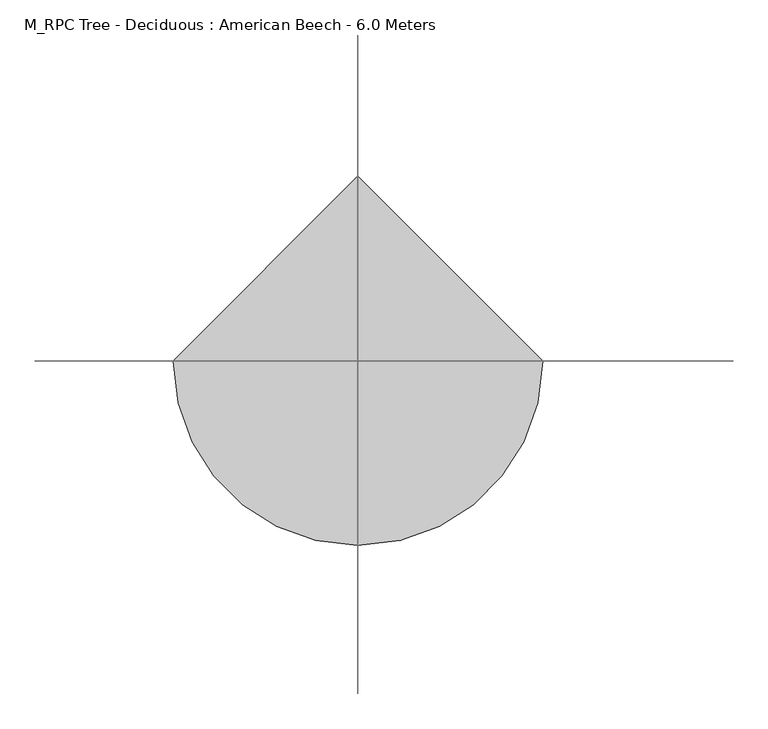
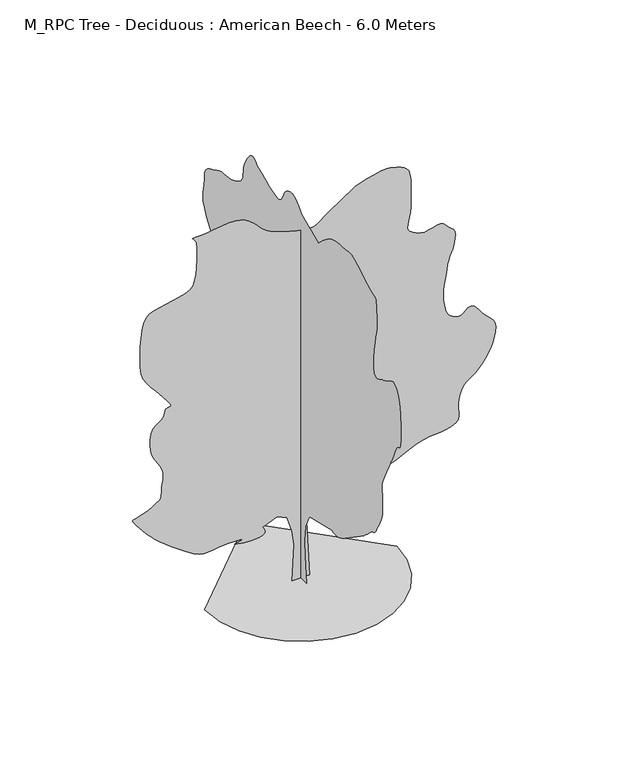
"""IFC4 building model written with IfcOpenShell, lengths in millimetres: geographic element geometry, M_RPC Tree - Deciduous : American Beech - 6.0 Meters."""

from ifc_helpers import new_model, si_unit, origin, place, context, project, spatial, triangles, source, transform, mapped, element, save


def m_rpc_tree_deciduous_american_beech_6_0_meters_be49fed4(model_context):
    return source(origin(), model_context, "Body", "Tessellation", [
        triangles([(0.0009733, 134.7013619, 0.0), (0.0009733, -147.494867, 0.0), (0.0009733, -109.8685844, 413.8878181), (0.0009733, -100.4623272, 649.050499), (0.0009733, -119.2748508, 884.2131798), (0.0009733, -232.153435, 1100.5634188), (0.0009733, -805.9506603, 1241.6609837), (0.0009733, -836.5581671, 1230.0334957), (0.0009733, -869.3831984, 1221.2035114), (0.0009733, -906.6532345, 1217.965991), (0.0009733, -950.5882708, 1223.1234524), (0.0009733, -1003.4058317, 1239.4685303), (0.0009733, -1067.3308542, 1269.7985104), (0.0009733, -1144.5859497, 1316.9135124), (0.0009733, -1455.0011593, 1533.2636787), (0.0009733, -1498.8811844, 1564.1163013), (0.0009733, -1542.2661816, 1593.486311), (0.0009733, -1585.8162849, 1623.3513485), (0.0009733, -1630.1888672, 1655.6862934), (0.0009733, -1676.041301, 1692.4613743), (0.0009733, -1724.0338657, 1735.6539413), (0.0009733, -1774.8239342, 1787.2388741), (0.0009733, -1818.8389801, 1828.7590141), (0.0009733, -1849.3615356, 1847.5739994), (0.0009733, -1871.3289448, 1854.3740204), (0.0009733, -1889.6765167, 1859.8590054), (0.0009733, -1909.3389793, 1874.7240864), (0.0009733, -1935.2541126, 1909.6614887), (0.0009733, -1972.3591152, 1975.3715767), (0.0009733, -2012.7566494, 2050.40159), (0.0009733, -2045.5841515, 2111.4491718), (0.0009733, -2071.3341785, 2166.4067184), (0.0009733, -2090.5042294, 2223.1767998), (0.0009733, -2103.5867157, 2289.651812), (0.0009733, -2111.0717239, 2373.7344704), (0.0009733, -2113.4592236, 2483.3219673), (0.0009733, -2108.7967175, 2583.5521866), (0.0009733, -2099.1991928, 2645.9521568), (0.0009733, -2091.2441551, 2687.927211), (0.0009733, -2091.5191383, 2726.9521545), (0.0009733, -2106.6016479, 2780.4523773), (0.0009733, -2143.0767471, 2865.9023941), (0.0009733, -2207.5242668, 3000.6773071), (0.0009733, -2272.3543213, 3131.8524399), (0.0009733, -2311.5169018, 3208.0527306), (0.0009733, -2333.894315, 3249.2275429), (0.0009733, -2348.3743904, 3275.2526985), (0.0009733, -2363.8419056, 3306.0525627), (0.0009733, -2389.1819286, 3361.5276649), (0.0009733, -2433.2795277, 3461.6026611), (0.0009733, -2483.0818657, 3552.8029083), (0.0009733, -2520.7019531, 3587.7528099), (0.0009733, -2547.8020432, 3595.3779259), (0.0009733, -2566.002095, 3604.6529411), (0.0009733, -2576.9770065, 3644.5278328), (0.0009733, -2582.3519691, 3743.9531593), (0.0009733, -2583.7771729, 3931.9283134), (0.0009733, -2574.1771774, 4144.4034256), (0.0009733, -2548.4520035, 4302.6033623), (0.0009733, -2511.2269501, 4413.2285866), (0.0009733, -2467.0668549, 4483.053685), (0.0009733, -2420.6095161, 4518.8035378), (0.0009733, -2376.4569786, 4527.2536034), (0.0009733, -2339.2143391, 4515.1287621), (0.0009733, -2306.9368034, 4495.0285355), (0.0009733, -2274.4943069, 4475.2535797), (0.0009733, -2241.7217434, 4456.1535828), (0.0009733, -2208.456768, 4438.0035278), (0.0009733, -2174.5318039, 4421.2036812), (0.0009733, -2139.7866863, 4406.0284447), (0.0009733, -2104.0516582, 4392.8536674), (0.0009733, -2063.4092262, 4373.6786751), (0.0009733, -2017.3366024, 4348.9034431), (0.0009733, -1970.769096, 4331.3786407), (0.0009733, -1928.6465218, 4333.9284851), (0.0009733, -1895.9015728, 4369.4036453), (0.0009733, -1877.4714478, 4450.6036308), (0.0009733, -1878.294072, 4590.37882), (0.0009733, -1893.3515831, 4743.5287743), (0.0009733, -1912.3565277, 4862.9290443), (0.0009733, -1932.3490574, 4958.6287262), (0.0009733, -1950.3665623, 5040.6789505), (0.0009733, -1963.4490486, 5119.1293945), (0.0009733, -1968.6315811, 5203.9794479), (0.0009733, -1962.9540207, 5305.2790787), (0.0009733, -1955.0840069, 5402.479541), (0.0009733, -1951.8190899, 5472.3543457), (0.0009733, -1947.4040977, 5521.0042831), (0.0009733, -1936.0790623, 5554.5045639), (0.0009733, -1912.0815445, 5578.9792328), (0.0009733, -1869.6565178, 5600.4796646), (0.0009733, -1803.044014, 5625.1043243), (0.0009733, -1720.9064404, 5661.3794357), (0.0009733, -1636.6338226, 5709.179425), (0.0009733, -1551.5337845, 5761.6047134), (0.0009733, -1466.931245, 5811.7045624), (0.0009733, -1384.1386242, 5852.5799744), (0.0009733, -1304.4711033, 5877.3546249), (0.0009733, -1229.2460438, 5879.0795197), (0.0009733, -1155.7484224, 5869.4295273), (0.0009733, -1081.2633614, 5862.9049255), (0.0009733, -1007.1082947, 5856.8547134), (0.0009733, -934.5982584, 5848.679631), (0.0009733, -865.0506866, 5835.7548386), (0.0009733, -799.7806154, 5815.4049179), (0.0009733, -740.1056242, 5785.0044479), (0.0009733, -686.9580688, 5749.2798843), (0.0009733, -639.7330444, 5714.5296799), (0.0009733, -597.445473, 5680.604425), (0.0009733, -559.105444, 5647.3547104), (0.0009733, -523.727916, 5614.5793854), (0.0009733, -490.3254127, 5582.1296219), (0.0009733, -457.9103854, 5549.8542664), (0.0009733, -15.8033629, 5737.9794113), (0.0009733, 22.480868, 5779.9547562), (0.0009733, 60.6828013, 5819.9046432), (0.0009733, 98.7203278, 5855.7047836), (0.0009733, 136.5108627, 5885.354718), (0.0009733, 173.9723933, 5906.7795731), (0.0009733, 211.0226754, 5917.9050568), (0.0009733, 247.5792013, 5916.7045486), (0.0009733, 282.6827272, 5907.9045044), (0.0009733, 315.3177446, 5896.9545914), (0.0009733, 345.3202738, 5882.8798691), (0.0009733, 372.5252993, 5864.7048157), (0.0009733, 396.7678239, 5841.4294922), (0.0009733, 417.8828505, 5812.054541), (0.0009733, 435.7103597, 5775.6044403), (0.0009733, 452.7128829, 5735.1795822), (0.0009733, 472.6778707, 5696.4046234), (0.0009733, 497.4153869, 5662.079393), (0.0009733, 528.7329157, 5634.979303), (0.0009733, 568.4429555, 5617.9047638), (0.0009733, 618.3554976, 5613.7044388), (0.0009733, 680.2805695, 5625.1043243), (0.0009733, 747.7156248, 5646.6297546), (0.0009733, 813.1781261, 5670.6294525), (0.0009733, 876.993199, 5696.6796066), (0.0009733, 939.4932358, 5724.37966), (0.0009733, 1001.0058329, 5753.3046387), (0.0009733, 1061.8608393, 5783.054567), (0.0009733, 1122.385924, 5813.2294693), (0.0009733, 1150.6609423, 5838.9296448), (0.0009733, 1179.2634842, 5861.5800064), (0.0009733, 1208.5259422, 5878.1545761), (0.0009733, 1238.7735146, 5885.5797043), (0.0009733, 1270.3410645, 5880.8299942), (0.0009733, 1303.5511013, 5860.8794678), (0.0009733, 1338.7360176, 5822.6294769), (0.0009733, 1373.2086227, 5775.8044281), (0.0009733, 1403.7311783, 5731.2548218), (0.0009733, 1429.8111271, 5687.8795624), (0.0009733, 1450.9562027, 5644.4793045), (0.0009733, 1466.6712318, 5599.9546967), (0.0009733, 1476.4611866, 5553.1046494), (0.0009733, 1479.8336552, 5502.8042313), (0.0009733, 1483.4812523, 5452.1044189), (0.0009733, 1495.191148, 5404.7044052), (0.0009733, 1516.1161789, 5360.4042023), (0.0009733, 1547.4087456, 5319.0793991), (0.0009733, 1590.2163071, 5280.554425), (0.0009733, 1645.6963509, 5244.6542908), (0.0009733, 1714.996336, 5211.204007), (0.0009733, 1788.9065048, 5186.2043701), (0.0009733, 1858.2064899, 5172.3790512), (0.0009733, 1924.0515987, 5164.8039322), (0.0009733, 1987.5940865, 5158.5543137), (0.0009733, 2049.9841736, 5148.679335), (0.0009733, 2112.3742607, 5130.2542969), (0.0009733, 2175.9167484, 5098.32892), (0.0009733, 2240.5017597, 5064.3292511), (0.0009733, 2303.2743816, 5038.2291), (0.0009733, 2361.2769459, 5012.9289001), (0.0009733, 2411.5469879, 4981.4040802), (0.0009733, 2451.1195724, 4936.5289124), (0.0009733, 2477.0345604, 4871.2538269), (0.0009733, 2486.331958, 4778.503965), (0.0009733, 2492.5844833, 4683.078685), (0.0009733, 2506.4019539, 4608.2036041), (0.0009733, 2520.4019714, 4544.5287117), (0.0009733, 2527.1521408, 4482.6537094), (0.0009733, 2519.2520416, 4413.2285866), (0.0009733, 2489.2945679, 4326.8286278), (0.0009733, 2429.8919437, 4214.1285301), (0.0009733, 2356.3968658, 4101.0031677), (0.0009733, 2289.9743214, 4014.028244), (0.0009733, 2231.9442879, 3944.8531059), (0.0009733, 2183.6218014, 3885.0282692), (0.0009733, 2146.3266941, 3826.2030807), (0.0009733, 2121.3692059, 3759.9780533), (0.0009733, 2110.0716396, 3677.9528275), (0.0009733, 2115.5842392, 3588.602758), (0.0009733, 2136.8916595, 3505.6778778), (0.0009733, 2169.0617889, 3428.6526375), (0.0009733, 2207.1542313, 3357.0776459), (0.0009733, 2246.2317879, 3290.4526428), (0.0009733, 2281.3643818, 3228.2526604), (0.0009733, 2307.6092915, 3170.0024368), (0.0009733, 2333.0293968, 3130.6025162), (0.0009733, 2364.704353, 3115.0525932), (0.0009733, 2396.2144936, 3108.0524391), (0.0009733, 2421.1445126, 3094.3024063), (0.0009733, 2433.074453, 3058.5275551), (0.0009733, 2425.586974, 2985.3773689), (0.0009733, 2392.2669147, 2859.5771988), (0.0009733, 2346.3593971, 2717.8521286), (0.0009733, 2303.741795, 2602.2772064), (0.0009733, 2261.946817, 2505.6519997), (0.0009733, 2218.506736, 2420.6845116), (0.0009733, 2170.9542606, 2340.1668972), (0.0009733, 2116.8167221, 2256.8517792), (0.0009733, 2053.6316254, 2163.5018085), (0.0009733, 1990.2540985, 2069.4091507), (0.0009733, 1937.0790012, 1987.8215435), (0.0009733, 1893.941518, 1917.4240963), (0.0009733, 1860.6740719, 1856.8965408), (0.0009733, 1837.1164982, 1804.928928), (0.0009733, 1823.1039814, 1760.1989548), (0.0009733, 1818.4689445, 1721.3939106), (0.0009733, 1822.4189941, 1694.76385), (0.0009733, 1831.633984, 1682.286414), (0.0009733, 1842.1640099, 1676.2263187), (0.0009733, 1850.0614929, 1668.8488621), (0.0009733, 1851.3789997, 1652.4213764), (0.0009733, 1842.1640099, 1619.2113396), (0.0009733, 1818.4689445, 1561.4837585), (0.0009733, 1798.7513981, 1500.5736683), (0.0009733, 1796.6388817, 1458.9161819), (0.0009733, 1800.9439968, 1430.4235897), (0.0009733, 1800.4789089, 1409.0036762), (0.0009733, 1784.0514233, 1388.5736732), (0.0009733, 1740.4738506, 1363.0410748), (0.0009733, 1658.5587925, 1326.3210777), (0.0009733, 1569.2912762, 1288.8036003), (0.0009733, 1504.2137077, 1262.3110313), (0.0009733, 1452.9586967, 1242.8959373), (0.0009733, 1405.1587074, 1226.6059433), (0.0009733, 1350.4460587, 1209.4934704), (0.0009733, 1278.4585922, 1187.608469), (0.0009733, 1178.8259382, 1157.003433), (0.0009733, 1078.8083513, 1127.6584219), (0.0009733, 1006.4358067, 1109.9959099), (0.0009733, 952.4932417, 1100.7283796), (0.0009733, 907.7632685, 1096.558358), (0.0009733, 863.0356934, 1094.2008711), (0.0009733, 809.0906576, 1090.3609165), (0.0009733, 736.7181129, 1081.7509043), (0.0009733, 652.0605623, 1068.0108273), (0.0009733, 567.4004683, 1051.3083584), (0.0009733, 482.7428813, 1032.140851), (0.0009733, 398.0828236, 1010.9958481), (0.0009733, 313.4252366, 988.3707756), (0.0009733, 228.7664324, 964.7582634), (0.0009733, 144.1076192, 940.6532667), (134.0396109, 0.0003104, 0.0138465), (-129.3426047, 0.0003104, 0.0138465), (-101.123079, 0.0002775, 554.9979549), (-129.3426047, 0.000265, 780.7556139), (-204.5949064, 0.0002508, 1015.9182947), (-355.1002728, 0.0002461, 1091.1708961), (-571.4504754, 0.0002508, 997.1057802), (-553.8429382, 0.0002524, 972.9983128), (-539.4454522, 0.000254, 949.3882713), (-531.465416, 0.0002555, 926.7632715), (-533.1104465, 0.0002571, 905.6181959), (-547.5904492, 0.0002587, 886.4482178), (-578.1129684, 0.0002587, 869.7482197), (-627.8879826, 0.0002602, 856.0082153), (-686.4380424, 0.0002602, 846.9307171), (-741.5356241, 0.0002602, 843.2831926), (-793.7506056, 0.0002602, 844.1606827), (-843.663184, 0.0002602, 848.6581553), (-891.8482515, 0.0002602, 855.8707237), (-938.8807732, 0.0002587, 864.8932108), (-985.3357864, 0.0002587, 874.8207298), (-938.2757229, 0.0002587, 886.8056814), (-899.1157585, 0.0002571, 898.1307169), (-875.7482168, 0.0002571, 908.1407164), (-876.0782112, 0.0002555, 916.1757637), (-908.000754, 0.0002555, 921.5782682), (-979.4132555, 0.0002555, 923.690712), (-1098.2134169, 0.0002555, 921.8532515), (-1223.378524, 0.0002571, 913.21577), (-1316.2934921, 0.0002571, 899.9682501), (-1388.4736794, 0.0002571, 889.0257494), (-1451.4387314, 0.0002571, 887.2982386), (-1516.7087299, 0.0002571, 901.6957609), (-1595.8012859, 0.0002555, 939.1307579), (-1700.2313942, 0.0002508, 1006.5108021), (-1816.016478, 0.0002461, 1088.4284037), (-1921.6016029, 0.0002414, 1165.4084433), (-2017.1466431, 0.0002367, 1238.2735451), (-2102.8191753, 0.0002336, 1307.8509842), (-2178.7867767, 0.0002289, 1374.9560452), (-2245.2068504, 0.0002242, 1440.4186192), (-2302.2492989, 0.0002211, 1505.0587143), (-2354.1368294, 0.0002179, 1567.5838223), (-2402.8969345, 0.0002132, 1625.1763824), (-2445.4045143, 0.0002101, 1676.3488403), (-2478.5321434, 0.0002085, 1719.6239605), (-2499.1544312, 0.0002069, 1753.5214554), (-2504.1520912, 0.0002054, 1776.5590027), (-2490.3793854, 0.0002038, 1787.2539894), (-2459.3920326, 0.0002038, 1794.0263958), (-2417.5419708, 0.0002038, 1805.7364368), (-2368.9443558, 0.0002022, 1821.5614883), (-2317.716814, 0.0002007, 1840.6764553), (-2267.9692692, 0.0001991, 1862.2590042), (-2223.8167316, 0.0001991, 1885.4865108), (-2189.3717411, 0.0001975, 1909.5391125), (-2162.3867603, 0.000196, 1927.8015152), (-2138.1966671, 0.000196, 1938.169051), (-2117.2992508, 0.0001944, 1946.561562), (-2100.1866325, 0.0001944, 1958.9016518), (-2087.3541309, 0.0001928, 1981.1165749), (-2079.291687, 0.0001897, 2019.1266094), (-2076.4941833, 0.0001866, 2078.8566845), (-2072.5992176, 0.0001834, 2146.7042873), (-2063.7692333, 0.0001787, 2206.9817127), (-2054.2791149, 0.0001756, 2262.4893711), (-2048.4115952, 0.0001725, 2316.0218594), (-2050.4417038, 0.0001693, 2370.3769718), (-2064.6466507, 0.0001662, 2428.3494507), (-2095.3066978, 0.0001615, 2492.7420319), (-2134.2492336, 0.0001583, 2555.8271347), (-2169.5717869, 0.0001552, 2611.5022247), (-2199.9567055, 0.0001521, 2665.0271553), (-2224.0918602, 0.0001489, 2721.6771858), (-2240.6543667, 0.0001442, 2786.727285), (-2248.3342758, 0.0001395, 2865.4274231), (-2245.8117554, 0.0001348, 2963.0772766), (-2228.8892418, 0.0001286, 3053.9275452), (-2197.981826, 0.0001254, 3115.1525871), (-2158.6842247, 0.0001223, 3156.3276901), (-2116.5866489, 0.0001207, 3186.952565), (-2077.289193, 0.0001191, 3216.6024994), (-2046.3816319, 0.000116, 3254.8024933), (-2029.4615891, 0.0001129, 3311.1025452), (-2011.7716805, 0.0001113, 3359.2778023), (-1982.4016708, 0.0001097, 3377.3028648), (-1952.6991234, 0.0001097, 3381.2026268), (-1934.0241005, 0.0001082, 3386.9028603), (-1937.7266361, 0.0001082, 3410.3778809), (-1975.1615604, 0.0001035, 3467.6028763), (-2057.6791981, 9.72e-05, 3574.5027466), (-2156.9017754, 9.09e-05, 3694.6029739), (-2237.5292667, 8.47e-05, 3789.0530228), (-2300.5494026, 8e-05, 3870.1780128), (-2346.9519482, 7.53e-05, 3950.303064), (-2377.7218723, 7.05e-05, 4041.8032928), (-2393.8469055, 6.27e-05, 4156.9782394), (-2396.3144875, 5.33e-05, 4308.2036018), (-2391.2694466, 4.39e-05, 4470.0786049), (-2382.4394623, 3.61e-05, 4609.2538307), (-2367.1893757, 2.98e-05, 4726.0536781), (-2342.8918762, 2.35e-05, 4820.8039993), (-2306.911805, 1.88e-05, 4893.8541916), (-2256.6142937, 1.57e-05, 4945.4789474), (-2189.3717411, 1.41e-05, 4976.0538254), (-2104.7392616, 1.25e-05, 4994.8788391), (-2008.7541321, 1.25e-05, 5012.5289246), (-1908.491502, 1.1e-05, 5031.3539383), (-1811.0265209, 9.4e-06, 5053.6293228), (-1723.4339024, 7.8e-06, 5081.6543564), (-1652.7887959, 6.3e-06, 5117.7288986), (-1606.1663509, 3.1e-06, 5164.2039688), (-1578.8513031, -1.6e-06, 5232.7044388), (-1560.4237942, -6.3e-06, 5326.3795349), (-1549.3987404, -1.25e-05, 5434.7043182), (-1544.298761, -2.04e-05, 5547.1544312), (-1543.6387722, -2.67e-05, 5653.1793549), (-1545.9437187, -3.14e-05, 5742.2547318), (-1549.7288074, -3.45e-05, 5803.8294617), (-1560.9438206, -3.76e-05, 5842.6799973), (-1580.7187763, -3.92e-05, 5871.4799835), (-1600.3263004, -4.08e-05, 5891.7049118), (-1611.0487564, -4.08e-05, 5904.879689), (-1604.1663277, -4.23e-05, 5912.4298096), (-1570.95382, -4.23e-05, 5915.9045975), (-1502.6962132, -4.23e-05, 5916.7295471), (-1406.2711395, -4.23e-05, 5923.0547424), (-1298.001004, -4.39e-05, 5937.4550262), (-1183.3109842, -4.39e-05, 5953.0046585), (-1067.6358501, -4.39e-05, 5962.7796432), (-956.4032501, -4.39e-05, 5959.9048187), (-855.043158, -4.39e-05, 5937.4550262), (-768.9856201, -4.08e-05, 5888.5045258), (-703.6355392, -3.61e-05, 5829.3546478), (-655.0655388, -3.29e-05, 5779.2298004), (-614.7254866, -3.14e-05, 5735.7045502), (-574.0554763, -2.82e-05, 5696.3046295), (-524.5004342, -2.67e-05, 5658.5546082), (-457.5028522, -2.35e-05, 5619.9546387), (-364.5052946, -2.19e-05, 5578.0792877), (-256.7552037, -1.88e-05, 5538.7543625), (-153.2841212, -1.72e-05, 5508.8044464), (-57.2167973, -1.57e-05, 5487.254599), (28.3195219, -1.57e-05, 5473.1042999), (100.1988349, -1.57e-05, 5465.3791901), (155.2941184, -1.41e-05, 5463.054332), (190.4793981, -1.57e-05, 5465.2042007), (215.8194211, -1.57e-05, 5473.054303), (243.4629554, -1.57e-05, 5487.6295761), (273.410219, -1.72e-05, 5507.6545166), (305.6602309, -1.88e-05, 5531.7792068), (340.2152802, -2.04e-05, 5558.729306), (377.0728051, -2.19e-05, 5587.1293167), (416.2353493, -2.35e-05, 5615.7043167), (792.4981384, -3.92e-05, 5869.679512), (817.288195, -3.92e-05, 5878.9295288), (882.5581936, -4.08e-05, 5902.1548553), (974.6482847, -4.23e-05, 5932.6297394), (1079.9033426, -4.55e-05, 5963.5795944), (1184.6634453, -4.55e-05, 5988.3048294), (1275.2734669, -4.7e-05, 6000.0046967), (1338.0760288, -4.7e-05, 5991.9796051), (1385.3260517, -4.55e-05, 5975.0550568), (1436.1986732, -4.39e-05, 5961.4297256), (1487.4012165, -4.39e-05, 5946.3050674), (1535.6386791, -4.23e-05, 5924.9546265), (1577.6262325, -4.08e-05, 5892.5548599), (1610.068729, -3.76e-05, 5844.3798935), (1629.6788692, -3.29e-05, 5775.6294388), (1639.0838184, -2.82e-05, 5698.6044891), (1643.8838161, -2.51e-05, 5627.2047775), (1645.2263214, -2.04e-05, 5558.9042953), (1644.2663509, -1.72e-05, 5491.2793533), (1642.1538345, -1.25e-05, 5421.8545212), (1640.0437889, -7.8e-06, 5348.1293701), (1639.0838184, -3.1e-06, 5267.6790482), (1634.0913906, 1.6e-06, 5187.5792862), (1622.1912449, 6.3e-06, 5116.5539703), (1607.9838272, 9.4e-06, 5054.4042755), (1596.081356, 1.25e-05, 5001.0040466), (1591.0912537, 1.57e-05, 4956.1288788), (1597.6187622, 1.72e-05, 4919.6537796), (1620.2713039, 1.88e-05, 4891.4037598), (1651.9738747, 2.04e-05, 4868.9289688), (1682.6888603, 2.19e-05, 4849.728978), (1712.5813671, 2.19e-05, 4833.6537964), (1741.8138851, 2.35e-05, 4820.5540146), (1770.5564621, 2.35e-05, 4810.2287727), (1798.9665012, 2.51e-05, 4802.5539505), (1827.213905, 2.51e-05, 4797.3289787), (1863.2490601, 2.51e-05, 4800.3037971), (1911.6264851, 2.35e-05, 4812.9788956), (1967.4066559, 2.35e-05, 4828.9287941), (2025.6565887, 2.19e-05, 4841.7788818), (2081.4366142, 2.19e-05, 4845.0539726), (2129.8141846, 2.35e-05, 4832.3788742), (2165.8491943, 2.51e-05, 4797.3289787), (2195.3593117, 2.67e-05, 4758.0787582), (2225.6892918, 2.82e-05, 4731.9538994), (2254.2093533, 2.98e-05, 4711.4536972), (2278.2892788, 3.14e-05, 4688.9539078), (2295.2918747, 3.29e-05, 4656.9288277), (2302.5869236, 3.61e-05, 4607.7786301), (2297.5418827, 4.08e-05, 4533.9537758), (2283.3617889, 4.55e-05, 4455.6536133), (2265.8943958, 4.86e-05, 4393.6536186), (2246.4493618, 5.17e-05, 4341.2036224), (2226.3468098, 5.49e-05, 4291.5284569), (2206.9042465, 5.8e-05, 4237.9035324), (2189.4342373, 6.27e-05, 4173.6033875), (2175.2567596, 6.74e-05, 4091.8534355), (2162.3117649, 7.21e-05, 4004.3782516), (2148.874213, 7.68e-05, 3925.278138), (2136.7516972, 8.15e-05, 3851.452993), (2127.756752, 8.62e-05, 3779.753009), (2123.6991508, 8.94e-05, 3707.0780846), (2126.3867775, 9.41e-05, 3630.302829), (2137.6292599, 9.88e-05, 3546.2777252), (2155.4842747, 0.0001035, 3469.5027603), (2176.791695, 0.0001066, 3413.652681), (2201.5542824, 0.0001097, 3374.2527603), (2229.7743622, 0.0001113, 3346.8526886), (2261.4493183, 0.0001129, 3327.0277359), (2296.5819122, 0.0001129, 3310.302594), (2335.1669117, 0.0001144, 3292.3025299), (2374.57439, 0.0001144, 3289.8526794), (2413.1620056, 0.0001129, 3313.0777153), (2452.4043777, 0.0001113, 3347.3276596), (2493.7896423, 0.0001097, 3377.9778236), (2538.8020111, 0.0001082, 3390.3276512), (2588.9021507, 0.0001097, 3369.8027412), (2645.5771797, 0.0001144, 3301.7025375), (2706.5522369, 0.0001191, 3218.4776756), (2765.8771042, 0.0001223, 3156.4526825), (2819.5773148, 0.0001254, 3106.9525063), (2863.7772331, 0.0001286, 3061.2523888), (2894.4523956, 0.0001317, 3010.6025734), (2907.702459, 0.0001348, 2946.27743), (2899.552375, 0.0001411, 2859.6021973), (2878.1022308, 0.0001458, 2766.3523659), (2853.5522758, 0.0001505, 2686.1020317), (2825.0272728, 0.0001552, 2615.752256), (2791.7272705, 0.0001583, 2552.1270699), (2752.8273193, 0.0001615, 2492.1121284), (2707.5271774, 0.0001662, 2432.6019527), (2654.9771873, 0.0001693, 2370.4569088), (2600.8270042, 0.0001725, 2317.1443199), (2551.1021324, 0.0001756, 2280.2868313), (2505.6519997, 0.0001772, 2250.9967587), (2464.3344635, 0.0001787, 2220.3917953), (2426.9544777, 0.0001803, 2179.5842571), (2393.3594353, 0.000185, 2119.691692), (2363.3868462, 0.0001897, 2031.8240902), (2347.2343437, 0.000196, 1934.7965824), (2348.1944595, 0.0002007, 1852.2490047), (2355.7344063, 0.0002038, 1782.5363995), (2359.3269196, 0.0002085, 1724.0139542), (2348.4393574, 0.0002116, 1675.0338043), (2312.5418392, 0.0002132, 1633.9512829), (2241.1018684, 0.0002148, 1599.1237576), (2155.26423, 0.0002164, 1575.9487186), (2078.4766205, 0.0002179, 1565.7737583), (2003.661565, 0.0002179, 1560.866209), (1923.7465302, 0.0002179, 1553.4887524), (1831.6565117, 0.0002195, 1535.9111916), (1720.3138893, 0.0002211, 1500.3962082), (1582.6438042, 0.0002258, 1439.2111347), (1432.7436516, 0.0002289, 1368.8411568), (1291.0710491, 0.000232, 1310.483527), (1160.0909626, 0.0002352, 1263.4785473), (1042.2783136, 0.0002383, 1227.1685543), (940.0957426, 0.0002399, 1200.8959574), (856.0131569, 0.0002399, 1184.0009857), (792.4981384, 0.0002414, 1175.8284468), (397.4228348, 0.0002414, 1166.4234249), (105.8200852, 0.0002446, 1119.3909033), (87.0075707, 0.0002587, 865.4131645), (-1430.8636791, 0.0, 0.0118397), (-1393.0361916, -327.8602567, 0.0118397), (-1285.305994, -628.9454762, 0.0118397), (-1116.2958887, -894.633256, 0.0118397), (-894.633256, -1116.2958887, 0.0118397), (-628.9454762, -1285.305994, 0.0118397), (-327.8602567, -1393.0361916, 0.0118397), (6.25e-05, -1430.8636791, 0.0118397), (327.8602567, -1393.0361916, 0.0118397), (628.9454762, -1285.305994, 0.0118397), (894.633256, -1116.2958887, 0.0118397), (1116.2958887, -894.633256, 0.0118397), (1285.305994, -628.9454762, 0.0118397), (1393.0361916, -327.8602567, 0.0118397), (1430.8636791, 0.0001254, 0.0118397), (-0.0001876, 1430.8636791, 0.0118397)], [[1, 2, 3], [254, 1, 3], [254, 3, 4], [254, 4, 5], [254, 5, 6], [53, 54, 55], [52, 53, 55], [201, 202, 203], [201, 203, 204], [200, 201, 204], [222, 223, 224], [52, 55, 56], [200, 204, 205], [199, 200, 205], [253, 254, 6], [221, 222, 224], [221, 224, 225], [229, 230, 231], [229, 231, 232], [228, 229, 232], [228, 232, 233], [227, 228, 233], [252, 253, 6], [221, 225, 226], [220, 221, 226], [199, 205, 206], [198, 199, 206], [62, 63, 64], [61, 62, 64], [61, 64, 65], [60, 61, 65], [60, 65, 66], [59, 60, 66], [59, 66, 67], [59, 67, 68], [58, 59, 68], [58, 68, 69], [58, 69, 70], [57, 58, 70], [57, 70, 71], [57, 71, 72], [57, 72, 73], [57, 73, 74], [56, 57, 74], [52, 56, 74], [51, 52, 74], [50, 51, 74], [50, 74, 75], [49, 50, 75], [48, 49, 75], [47, 48, 75], [46, 47, 75], [45, 46, 75], [44, 45, 75], [43, 44, 75], [42, 43, 75], [42, 75, 76], [41, 42, 76], [227, 233, 234], [226, 227, 234], [220, 226, 234], [219, 220, 234], [219, 234, 235], [219, 235, 236], [219, 236, 237], [218, 219, 237], [218, 237, 238], [218, 238, 239], [218, 239, 240], [217, 218, 240], [217, 240, 241], [217, 241, 242], [217, 242, 243], [217, 243, 244], [217, 244, 245], [217, 245, 246], [216, 217, 246], [216, 246, 247], [215, 216, 247], [215, 247, 248], [251, 252, 6], [88, 89, 90], [88, 90, 91], [87, 88, 91], [87, 91, 92], [86, 87, 92], [86, 92, 93], [85, 86, 93], [84, 85, 93], [84, 93, 94], [83, 84, 94], [82, 83, 94], [81, 82, 94], [81, 94, 95], [80, 81, 95], [80, 95, 96], [80, 96, 97], [80, 97, 98], [80, 98, 99], [80, 99, 100], [80, 100, 101], [80, 101, 102], [80, 102, 103], [80, 103, 104], [80, 104, 105], [80, 105, 106], [80, 106, 107], [80, 107, 108], [80, 108, 109], [80, 109, 110], [80, 110, 111], [80, 111, 112], [79, 80, 112], [79, 112, 113], [78, 79, 113], [77, 78, 113], [76, 77, 113], [41, 76, 113], [40, 41, 113], [40, 113, 114], [39, 40, 114], [198, 206, 207], [197, 198, 207], [196, 197, 207], [196, 207, 208], [195, 196, 208], [195, 208, 209], [195, 209, 210], [195, 210, 211], [194, 195, 211], [194, 211, 212], [194, 212, 213], [193, 194, 213], [193, 213, 214], [214, 215, 248], [193, 214, 248], [193, 248, 249], [192, 193, 249], [192, 249, 250], [192, 250, 251], [192, 251, 6], [192, 6, 7], [191, 192, 7], [190, 191, 7], [189, 190, 7], [38, 39, 114], [37, 38, 114], [36, 37, 114], [35, 36, 114], [34, 35, 114], [33, 34, 114], [32, 33, 114], [31, 32, 114], [30, 31, 114], [29, 30, 114], [28, 29, 114], [27, 28, 114], [26, 27, 114], [25, 26, 114], [24, 25, 114], [23, 24, 114], [22, 23, 114], [21, 22, 114], [20, 21, 114], [19, 20, 114], [18, 19, 114], [17, 18, 114], [16, 17, 114], [15, 16, 114], [14, 15, 114], [13, 14, 114], [12, 13, 114], [11, 12, 114], [10, 11, 114], [9, 10, 114], [8, 9, 114], [7, 8, 114], [189, 7, 114], [188, 189, 114], [188, 114, 115], [188, 115, 116], [188, 116, 117], [188, 117, 118], [188, 118, 119], [188, 119, 120], [188, 120, 121], [146, 147, 148], [145, 146, 148], [144, 145, 148], [144, 148, 149], [143, 144, 149], [143, 149, 150], [142, 143, 150], [142, 150, 151], [142, 151, 152], [141, 142, 152], [141, 152, 153], [141, 153, 154], [141, 154, 155], [141, 155, 156], [140, 141, 156], [140, 156, 157], [139, 140, 157], [138, 139, 157], [138, 157, 158], [137, 138, 158], [137, 158, 159], [136, 137, 159], [135, 136, 159], [135, 159, 160], [134, 135, 160], [134, 160, 161], [174, 175, 176], [173, 174, 176], [173, 176, 177], [172, 173, 177], [171, 172, 177], [171, 177, 178], [170, 171, 178], [170, 178, 179], [169, 170, 179], [168, 169, 179], [167, 168, 179], [166, 167, 179], [165, 166, 179], [165, 179, 180], [165, 180, 181], [165, 181, 182], [165, 182, 183], [165, 183, 184], [165, 184, 185], [165, 185, 186], [165, 186, 187], [164, 165, 187], [164, 187, 188], [163, 164, 188], [162, 163, 188], [161, 162, 188], [134, 161, 188], [133, 134, 188], [132, 133, 188], [125, 126, 127], [124, 125, 127], [124, 127, 128], [123, 124, 128], [122, 123, 128], [121, 122, 128], [121, 128, 129], [121, 129, 130], [121, 130, 131], [188, 121, 131], [132, 188, 131], [274, 275, 276], [531, 255, 256], [531, 256, 257], [531, 257, 258], [531, 258, 259], [530, 531, 259], [376, 377, 378], [376, 378, 379], [375, 376, 379], [273, 274, 276], [273, 276, 277], [375, 379, 380], [374, 375, 380], [273, 277, 278], [272, 273, 278], [301, 302, 303], [301, 303, 304], [300, 301, 304], [300, 304, 305], [299, 300, 305], [299, 305, 306], [298, 299, 306], [298, 306, 307], [297, 298, 307], [297, 307, 308], [271, 272, 278], [296, 297, 308], [296, 308, 309], [373, 374, 380], [373, 380, 381], [372, 373, 381], [295, 296, 309], [295, 309, 310], [294, 295, 310], [294, 310, 311], [294, 311, 312], [294, 312, 313], [293, 294, 313], [293, 313, 314], [292, 293, 314], [271, 278, 279], [291, 292, 314], [530, 259, 260], [372, 381, 382], [371, 372, 382], [291, 314, 315], [290, 291, 315], [371, 382, 383], [370, 371, 383], [370, 383, 384], [369, 370, 384], [369, 384, 385], [369, 385, 386], [369, 386, 387], [369, 387, 388], [369, 388, 389], [369, 389, 390], [368, 369, 390], [368, 390, 391], [367, 368, 391], [367, 391, 392], [367, 392, 393], [366, 367, 393], [366, 393, 394], [270, 271, 279], [366, 394, 395], [338, 339, 340], [338, 340, 341], [289, 290, 315], [483, 484, 485], [483, 485, 486], [482, 483, 486], [481, 482, 486], [481, 486, 487], [480, 481, 487], [288, 289, 315], [287, 288, 315], [286, 287, 315], [285, 286, 315], [284, 285, 315], [283, 284, 315], [282, 283, 315], [282, 315, 316], [281, 282, 316], [281, 316, 317], [281, 317, 318], [281, 318, 319], [281, 319, 320], [280, 281, 320], [280, 320, 321], [279, 280, 321], [279, 321, 322], [480, 487, 488], [264, 265, 266], [263, 264, 266], [263, 266, 267], [262, 263, 267], [262, 267, 268], [261, 262, 268], [261, 268, 269], [261, 269, 270], [261, 270, 279], [261, 279, 322], [260, 261, 322], [530, 260, 322], [530, 322, 323], [529, 530, 323], [529, 323, 324], [366, 395, 396], [365, 366, 396], [337, 338, 341], [337, 341, 342], [529, 324, 325], [528, 529, 325], [527, 528, 325], [526, 527, 325], [525, 526, 325], [524, 525, 325], [523, 524, 325], [522, 523, 325], [521, 522, 325], [521, 325, 326], [521, 326, 327], [521, 327, 328], [521, 328, 329], [521, 329, 330], [521, 330, 331], [521, 331, 332], [521, 332, 333], [521, 333, 334], [521, 334, 335], [521, 335, 336], [521, 336, 337], [521, 337, 342], [520, 521, 342], [520, 342, 343], [519, 520, 343], [518, 519, 343], [518, 343, 344], [517, 518, 344], [449, 450, 451], [448, 449, 451], [448, 451, 452], [447, 448, 452], [446, 447, 452], [446, 452, 453], [516, 517, 344], [515, 516, 344], [514, 515, 344], [513, 514, 344], [512, 513, 344], [511, 512, 344], [510, 511, 344], [509, 510, 344], [508, 509, 344], [507, 508, 344], [506, 507, 344], [505, 506, 344], [504, 505, 344], [503, 504, 344], [502, 503, 344], [501, 502, 344], [500, 501, 344], [499, 500, 344], [498, 499, 344], [497, 498, 344], [496, 497, 344], [495, 496, 344], [494, 495, 344], [493, 494, 344], [492, 493, 344], [491, 492, 344], [490, 491, 344], [489, 490, 344], [488, 489, 344], [480, 488, 344], [479, 480, 344], [478, 479, 344], [477, 478, 344], [476, 477, 344], [475, 476, 344], [474, 475, 344], [473, 474, 344], [472, 473, 344], [471, 472, 344], [470, 471, 344], [469, 470, 344], [468, 469, 344], [467, 468, 344], [466, 467, 344], [465, 466, 344], [464, 465, 344], [463, 464, 344], [463, 344, 345], [462, 463, 345], [462, 345, 346], [461, 462, 346], [460, 461, 346], [459, 460, 346], [458, 459, 346], [457, 458, 346], [456, 457, 346], [455, 456, 346], [454, 455, 346], [453, 454, 346], [446, 453, 346], [445, 446, 346], [444, 445, 346], [443, 444, 346], [442, 443, 346], [441, 442, 346], [440, 441, 346], [439, 440, 346], [438, 439, 346], [437, 438, 346], [436, 437, 346], [435, 436, 346], [435, 346, 347], [435, 347, 348], [435, 348, 349], [435, 349, 350], [435, 350, 351], [435, 351, 352], [435, 352, 353], [435, 353, 354], [435, 354, 355], [435, 355, 356], [435, 356, 357], [435, 357, 358], [435, 358, 359], [435, 359, 360], [435, 360, 361], [435, 361, 362], [435, 362, 363], [435, 363, 364], [435, 364, 365], [435, 365, 396], [435, 396, 397], [435, 397, 398], [435, 398, 399], [435, 399, 400], [435, 400, 401], [435, 401, 402], [435, 402, 403], [435, 403, 404], [435, 404, 405], [435, 405, 406], [435, 406, 407], [435, 407, 408], [435, 408, 409], [434, 435, 409], [433, 434, 409], [432, 433, 409], [431, 432, 409], [430, 431, 409], [429, 430, 409], [429, 409, 410], [429, 410, 411], [429, 411, 412], [428, 429, 412], [428, 412, 413], [427, 428, 413], [426, 427, 413], [426, 413, 414], [425, 426, 414], [425, 414, 415], [425, 415, 416], [425, 416, 417], [424, 425, 417], [424, 417, 418], [423, 424, 418], [423, 418, 419], [422, 423, 419], [422, 419, 420], [421, 422, 420], [546, 547, 532], [545, 546, 532], [545, 532, 533], [544, 545, 533], [544, 533, 534], [544, 534, 535], [543, 544, 535], [542, 543, 535], [542, 535, 536], [542, 536, 537], [542, 537, 538], [542, 538, 539], [542, 539, 540], [542, 540, 541]], closed=False),
    ])


if __name__ == "__main__":
    model = new_model("IFC4")
    model_context = context("Model", 3, world=origin())
    ifc_project = project(units=[si_unit("LENGTHUNIT", "METRE", prefix="MILLI")], contexts=[model_context])
    site = spatial("IfcSite", under=ifc_project)
    building = spatial("IfcBuilding", under=site)
    placement = place(None, origin())
    m_rpc_tree_deciduous_american_beech_6_0_meters_shape = m_rpc_tree_deciduous_american_beech_6_0_meters_be49fed4(model_context)
    element("IfcGeographicElement", 1, ObjectType="M_RPC Tree - Deciduous : American Beech - 6.0 Meters", at=placement, inside=building, context=model_context, shape_type="MappedRepresentation", body=[
        mapped(m_rpc_tree_deciduous_american_beech_6_0_meters_shape, transform((0.0, 0.0, 0.0), x_axis=(1.0, 0.0, 0.0), y_axis=(0.0, 1.0, 0.0), z_axis=(0.0, 0.0, 1.0))),
    ])
    save(model, "model.ifc")
